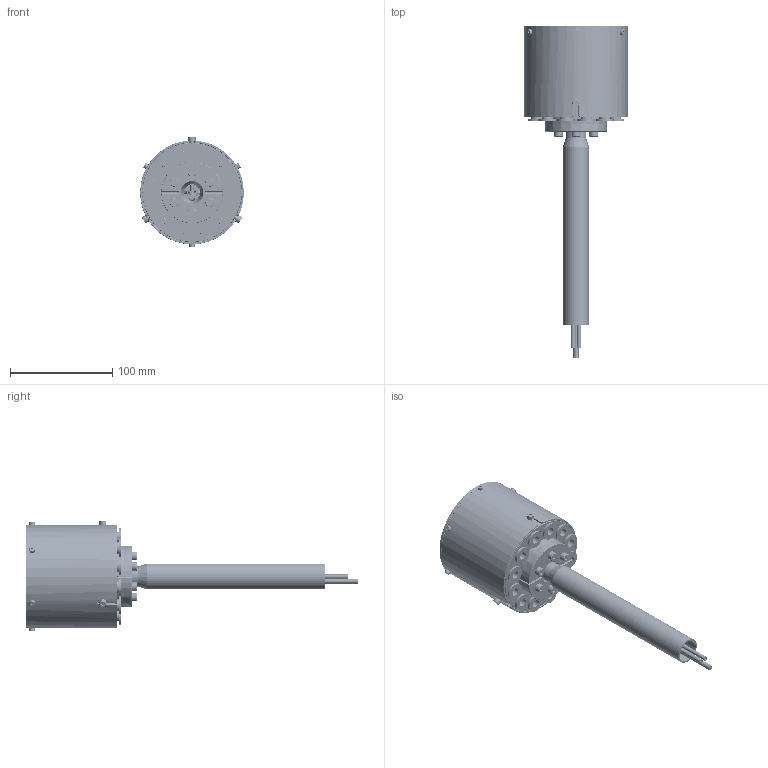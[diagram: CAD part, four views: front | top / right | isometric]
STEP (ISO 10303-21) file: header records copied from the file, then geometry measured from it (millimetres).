
FILE_DESCRIPTION (( 'STEP AP203' ), '1' );
FILE_NAME ('Magnetron R06 - M5 coolant fittings.step', '2026-11-24T02:27:28', ( '' ), ( '' ), 'SwSTEP 2.0', 'SolidWorks 2021', '' );
FILE_SCHEMA (( 'CONFIG_CONTROL_DESIGN' ));
Length unit declared in the file: inch
Products named in the file (142): 122 Gun 123 lowerbolts; 044 Gun 045 outermag; 103 Gun aluminium target D50_8 x3_175; 124 Gun 125 lowerbolts; 011 Gun 012 backbolts; 048 Gun 049 headbolts; 065 Gun 066 kfclamps; 058 Gun 059 spacer; 021 Gun 022 outermag; 127 Gun 128 kftube; 067 Gun 068 kfbolts; 082 Gun 083 basebolts; 123 Gun 124 upperbolts; 045 Gun 046 backbolts; 064 Gun 065 kfclamps; 015 Gun 016 backbolts; 088 Gun 089 basebolts; 017 Gun 018 outermag; 072 Gun 073 kfbolts; 117 Gun 118 upperbolts; 027 Gun 028 backbolts; 050 Gun 051 headbolts; 041 Gun 042 outermag; 077 Gun 078 cups; 114 Gun 115 targetbolts R05 M3x10; 080 Gun 081 basebolts; 039 Gun 040 centermag; 053 Gun 054 headbolts; 076 Gun 077 basebolts; 069 Gun 070 kfcenter; 066 Gun 067 kfbolts; 108 Gun 109 targetbolts R05 M3x10; 043 Gun 044 outermag; 138 Gun 139 coax; 074 Gun 075 cups; 116 Gun 117 darkcap; 029 Gun 030 waterseal; 121 Gun 122 shieldtube; 018 Gun 019 backbolts; 057 Gun 058 headbolts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
Assembly tree (141 placements, depth 2):
  Magnetron R06 - M5 coolant fittings
    000 Gun 001 outermag
    001 Gun 002 outermag
    002 Gun 003 outermag
    003 Gun 004 outermag
    004 Gun 005 backbolts
    005 Gun 006 backbolts
    006 Gun 007 backbolts
    007 Gun 008 outermag
    008 Gun 009 outermag
    009 Gun 010 outermag
    010 Gun 011 outermag
    011 Gun 012 backbolts
    012 Gun 013 outermag
    013 Gun 014 outermag
    014 Gun 015 backbolts
    015 Gun 016 backbolts
    016 Gun 017 outermag
    017 Gun 018 outermag
    018 Gun 019 backbolts
    019 SMC KQG2S04-M5 body 18
    020 Gun 021 outermag
    021 Gun 022 outermag
    022 SMC KQG2S04-M5 body -18
    023 Gun 024 outermag
    024 Gun 025 outermag
    025 Gun 026 backbolts
    026 SMC KQG2S04-M5 release ring 18
    027 Gun 028 backbolts
    028 SMC KQG2S04-M5 release ring -18
    029 Gun 030 waterseal
    030 Gun 031 outermag
    031 Gun 032 outermag
    032 Gun 033 yokebolt
    033 Gun 034 waterseal
    034 Gun 035 cooler
    035 Gun copper backplate R06 M5 coolant ports
    036 Gun 037 yoke
    037 Gun 038 centermag
    038 Gun 039 backbolts
    039 Gun 040 centermag
    040 Gun 041 backbolts
    041 Gun 042 outermag
    042 Gun 043 outermag
    043 Gun 044 outermag
    044 Gun 045 outermag
    045 Gun 046 backbolts
    046 Gun 047 outermag
    047 Gun 048 outermag
    048 Gun 049 headbolts
    049 Gun 050 headbolts
    050 Gun 051 headbolts
    051 Gun 052 headbolts
    052 Gun 053 headbolts
    053 Gun 054 headbolts
    054 Gun 055 headseal
    055 Gun 056 headbolts
    056 Gun 057 headbolts
    057 Gun 058 headbolts
    058 Gun 059 spacer
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Bounding box: 101.6 x 325 x 108.6 mm (x, y, z)
Volume: 640414.4 mm3; surface area: 354868.8 mm2
Topology: 141 solids, 141 shells, 3421 faces, 7568 edges, 4610 vertices
Faces by surface type: cylinder 1221, plane 1016, cone 930, bspline 216, torus 38
Entity records: 127615 total; most frequent: CARTESIAN_POINT 36037, DIRECTION 16410, ORIENTED_EDGE 14924, EDGE_CURVE 7462, AXIS2_PLACEMENT_3D 6436, VERTEX_POINT 4608, EDGE_LOOP 4138, LINE 3538
